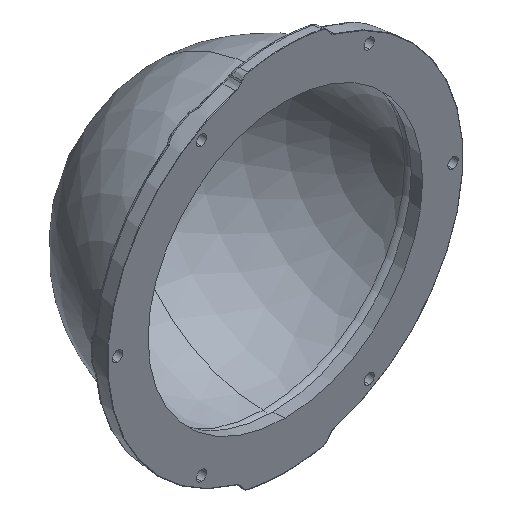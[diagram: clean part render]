
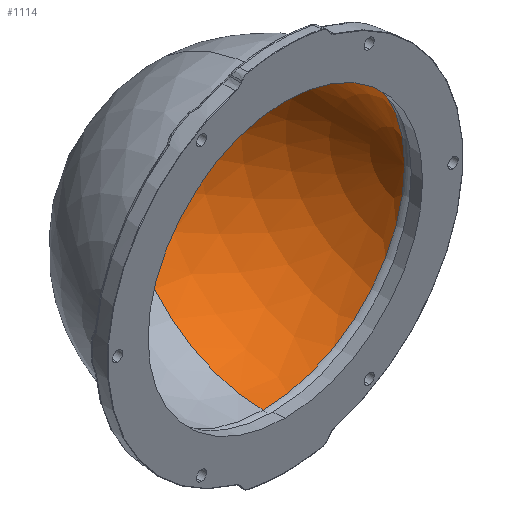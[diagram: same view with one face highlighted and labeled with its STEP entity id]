
A CAD part, isometric view. The second image highlights one B-rep face of the part: STEP entity #1114.
In plain terms, the highlighted spherical face has radius 45.568 mm.
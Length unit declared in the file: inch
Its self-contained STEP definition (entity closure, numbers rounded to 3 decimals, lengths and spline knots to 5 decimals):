
#99 = CARTESIAN_POINT ( 'NONE',  ( 0., 0.28248, 0. ) ) ;
#386 = VERTEX_POINT ( 'NONE', #4000 ) ;
#830 = CIRCLE ( 'NONE', #4470, 1.794 ) ;
#873 = CARTESIAN_POINT ( 'NONE',  ( 0., 0.28248, 0. ) ) ;
#1114 = ADVANCED_FACE ( 'NONE', ( #2800 ), #4687, .F. ) ;
#1229 = DIRECTION ( 'NONE',  ( 1., 0., 0. ) ) ;
#1744 = ORIENTED_EDGE ( 'NONE', *, *, #7350, .F. ) ;
#1764 = EDGE_CURVE ( 'NONE', #386, #2683, #830, .T. ) ;
#1853 = DIRECTION ( 'NONE',  ( 0., 0., 1. ) ) ;
#2398 = DIRECTION ( 'NONE',  ( 0., 1., 0. ) ) ;
#2683 = VERTEX_POINT ( 'NONE', #6785 ) ;
#2800 = FACE_OUTER_BOUND ( 'NONE', #3093, .T. ) ;
#2872 = EDGE_CURVE ( 'NONE', #386, #7816, #3942, .T. ) ;
#3088 = ORIENTED_EDGE ( 'NONE', *, *, #2872, .T. ) ;
#3093 = EDGE_LOOP ( 'NONE', ( #1744, #6853, #3088 ) ) ;
#3383 = DIRECTION ( 'NONE',  ( -1., 0., 0. ) ) ;
#3686 = CARTESIAN_POINT ( 'NONE',  ( 0., 0.28248, 0. ) ) ;
#3779 = AXIS2_PLACEMENT_3D ( 'NONE', #3686, #1229, #1853 ) ;
#3942 = CIRCLE ( 'NONE', #7038, 1.794 ) ;
#4000 = CARTESIAN_POINT ( 'NONE',  ( 0., 0.28248, 1.794 ) ) ;
#4273 = DIRECTION ( 'NONE',  ( 0., 0., 1. ) ) ;
#4280 = CIRCLE ( 'NONE', #4455, 1.794 ) ;
#4455 = AXIS2_PLACEMENT_3D ( 'NONE', #873, #5036, #5652 ) ;
#4470 = AXIS2_PLACEMENT_3D ( 'NONE', #99, #2398, #4273 ) ;
#4687 = SPHERICAL_SURFACE ( 'NONE', #3779, 1.794 ) ;
#5036 = DIRECTION ( 'NONE',  ( 1., 0., 0. ) ) ;
#5407 = CARTESIAN_POINT ( 'NONE',  ( 0., 2.07648, 0. ) ) ;
#5652 = DIRECTION ( 'NONE',  ( 0., 0., -1. ) ) ;
#6785 = CARTESIAN_POINT ( 'NONE',  ( 0., 0.28248, -1.794 ) ) ;
#6853 = ORIENTED_EDGE ( 'NONE', *, *, #1764, .F. ) ;
#6992 = DIRECTION ( 'NONE',  ( 0., 0., 1. ) ) ;
#7038 = AXIS2_PLACEMENT_3D ( 'NONE', #7055, #3383, #6992 ) ;
#7055 = CARTESIAN_POINT ( 'NONE',  ( 0., 0.28248, 0. ) ) ;
#7350 = EDGE_CURVE ( 'NONE', #2683, #7816, #4280, .T. ) ;
#7816 = VERTEX_POINT ( 'NONE', #5407 ) ;
